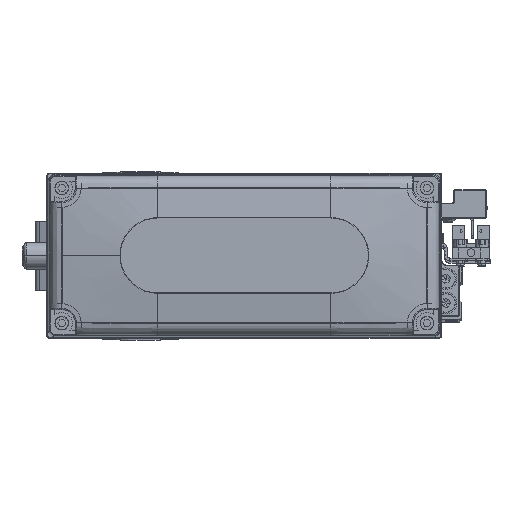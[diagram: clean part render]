
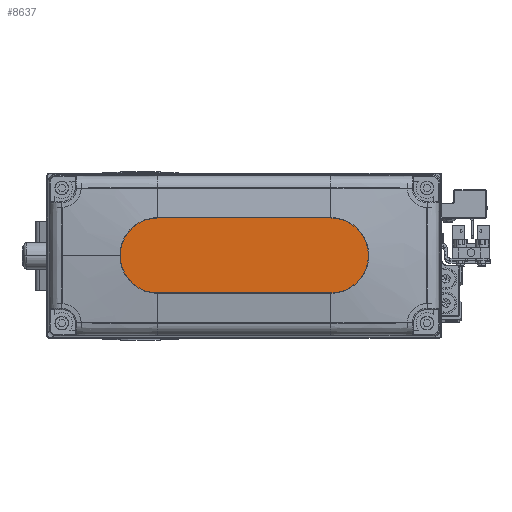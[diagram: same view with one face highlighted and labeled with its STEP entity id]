
A CAD part, top view. The second image highlights one B-rep face of the part: STEP entity #8637.
In plain terms, the highlighted planar face has unit normal (0, 0, 1).
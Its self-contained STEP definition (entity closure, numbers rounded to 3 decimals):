
#112 = CARTESIAN_POINT ( 'NONE',  ( 32., 0., 35. ) ) ;
#821 = DIRECTION ( 'NONE',  ( -1., 0., 0. ) ) ;
#988 = CIRCLE ( 'NONE', #26895, 14. ) ;
#2890 = ORIENTED_EDGE ( 'NONE', *, *, #22859, .T. ) ;
#3582 = ORIENTED_EDGE ( 'NONE', *, *, #15242, .T. ) ;
#3653 = VERTEX_POINT ( 'NONE', #41108 ) ;
#3766 = VERTEX_POINT ( 'NONE', #32076 ) ;
#4899 = VERTEX_POINT ( 'NONE', #35154 ) ;
#5516 = EDGE_CURVE ( 'NONE', #4899, #13140, #30358, .T. ) ;
#8637 = ADVANCED_FACE ( 'NONE', ( #30613 ), #44744, .T. ) ;
#9222 = AXIS2_PLACEMENT_3D ( 'NONE', #13006, #27132, #41246 ) ;
#11265 = CARTESIAN_POINT ( 'NONE',  ( 32., -14., 35. ) ) ;
#11815 = CARTESIAN_POINT ( 'NONE',  ( 32., 0., 35. ) ) ;
#12461 = ORIENTED_EDGE ( 'NONE', *, *, #26655, .T. ) ;
#12764 = DIRECTION ( 'NONE',  ( 1., 0., 0. ) ) ;
#13006 = CARTESIAN_POINT ( 'NONE',  ( 0., 0., 35. ) ) ;
#13140 = VERTEX_POINT ( 'NONE', #11265 ) ;
#13715 = DIRECTION ( 'NONE',  ( 0., 0., 1. ) ) ;
#14250 = DIRECTION ( 'NONE',  ( 0., 0., 1. ) ) ;
#15242 = EDGE_CURVE ( 'NONE', #19194, #4899, #35404, .T. ) ;
#15413 = AXIS2_PLACEMENT_3D ( 'NONE', #45451, #13715, #27836 ) ;
#16085 = ORIENTED_EDGE ( 'NONE', *, *, #20778, .T. ) ;
#18436 = LINE ( 'NONE', #32568, #30526 ) ;
#19194 = VERTEX_POINT ( 'NONE', #19652 ) ;
#19652 = CARTESIAN_POINT ( 'NONE',  ( -32., 14., 35. ) ) ;
#20778 = EDGE_CURVE ( 'NONE', #3766, #3653, #988, .T. ) ;
#21759 = AXIS2_PLACEMENT_3D ( 'NONE', #112, #14250, #28387 ) ;
#22859 = EDGE_CURVE ( 'NONE', #3653, #19194, #18436, .T. ) ;
#25939 = DIRECTION ( 'NONE',  ( 0., 0., 1. ) ) ;
#26655 = EDGE_CURVE ( 'NONE', #13140, #3766, #41735, .T. ) ;
#26895 = AXIS2_PLACEMENT_3D ( 'NONE', #11815, #25939, #40070 ) ;
#27132 = DIRECTION ( 'NONE',  ( 0., 0., 1. ) ) ;
#27836 = DIRECTION ( 'NONE',  ( 1., 0., 0. ) ) ;
#28387 = DIRECTION ( 'NONE',  ( 1., 0., 0. ) ) ;
#30358 = LINE ( 'NONE', #44488, #37410 ) ;
#30526 = VECTOR ( 'NONE', #821, 1000. ) ;
#30613 = FACE_OUTER_BOUND ( 'NONE', #34725, .T. ) ;
#32076 = CARTESIAN_POINT ( 'NONE',  ( 46., 0., 35. ) ) ;
#32568 = CARTESIAN_POINT ( 'NONE',  ( -32., 14., 35. ) ) ;
#34725 = EDGE_LOOP ( 'NONE', ( #2890, #3582, #36987, #12461, #16085 ) ) ;
#35154 = CARTESIAN_POINT ( 'NONE',  ( -32., -14., 35. ) ) ;
#35404 = CIRCLE ( 'NONE', #15413, 14. ) ;
#36987 = ORIENTED_EDGE ( 'NONE', *, *, #5516, .T. ) ;
#37410 = VECTOR ( 'NONE', #12764, 1000. ) ;
#40070 = DIRECTION ( 'NONE',  ( 1., 0., 0. ) ) ;
#41108 = CARTESIAN_POINT ( 'NONE',  ( 32., 14., 35. ) ) ;
#41246 = DIRECTION ( 'NONE',  ( 1., 0., 0. ) ) ;
#41735 = CIRCLE ( 'NONE', #21759, 14. ) ;
#44488 = CARTESIAN_POINT ( 'NONE',  ( -32., -14., 35. ) ) ;
#44744 = PLANE ( 'NONE',  #9222 ) ;
#45451 = CARTESIAN_POINT ( 'NONE',  ( -32., 0., 35. ) ) ;
